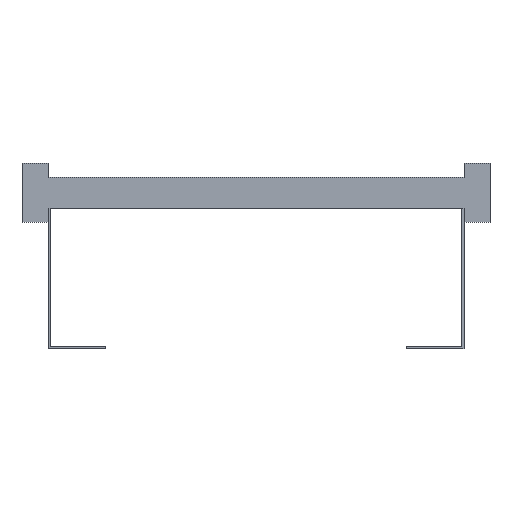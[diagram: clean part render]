
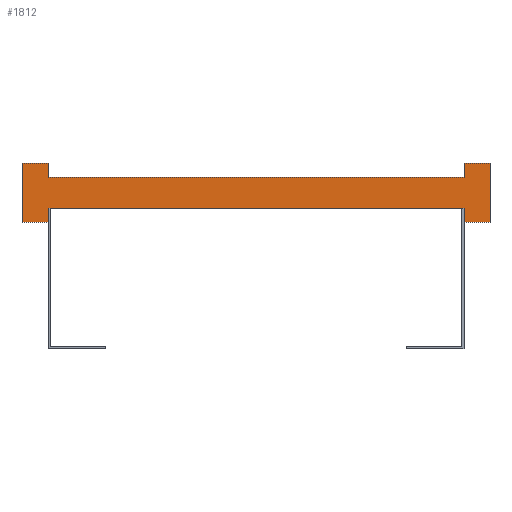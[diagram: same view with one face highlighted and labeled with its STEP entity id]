
A CAD part, front view. The second image highlights one B-rep face of the part: STEP entity #1812.
In plain terms, the highlighted planar face has unit normal (0, -1, 0).
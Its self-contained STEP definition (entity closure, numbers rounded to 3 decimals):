
#1=DIRECTION('',(0.,0.,1.));
#2=VECTOR('',#1,13.5);
#3=CARTESIAN_POINT('',(200.,0.,-28.5));
#4=LINE('',#3,#2);
#5=DIRECTION('',(0.,0.,-1.));
#6=VECTOR('',#5,13.5);
#7=CARTESIAN_POINT('',(-200.,0.,-15.));
#8=LINE('',#7,#6);
#9=DIRECTION('',(-1.,0.,0.));
#10=VECTOR('',#9,25.);
#11=CARTESIAN_POINT('',(-200.,0.,-28.5));
#12=LINE('',#11,#10);
#13=DIRECTION('',(0.,0.,1.));
#14=VECTOR('',#13,57.);
#15=CARTESIAN_POINT('',(-225.,0.,-28.5));
#16=LINE('',#15,#14);
#17=DIRECTION('',(1.,0.,0.));
#18=VECTOR('',#17,25.);
#19=CARTESIAN_POINT('',(-225.,0.,28.5));
#20=LINE('',#19,#18);
#21=DIRECTION('',(0.,0.,-1.));
#22=VECTOR('',#21,13.5);
#23=CARTESIAN_POINT('',(-200.,0.,28.5));
#24=LINE('',#23,#22);
#25=DIRECTION('',(0.,0.,1.));
#26=VECTOR('',#25,13.5);
#27=CARTESIAN_POINT('',(200.,0.,15.));
#28=LINE('',#27,#26);
#29=DIRECTION('',(1.,0.,0.));
#30=VECTOR('',#29,25.);
#31=CARTESIAN_POINT('',(200.,0.,28.5));
#32=LINE('',#31,#30);
#33=DIRECTION('',(0.,0.,-1.));
#34=VECTOR('',#33,57.);
#35=CARTESIAN_POINT('',(225.,0.,28.5));
#36=LINE('',#35,#34);
#37=DIRECTION('',(-1.,0.,0.));
#38=VECTOR('',#37,25.);
#39=CARTESIAN_POINT('',(225.,0.,-28.5));
#40=LINE('',#39,#38);
#1329=DIRECTION('',(1.,0.,0.));
#1330=VECTOR('',#1329,400.);
#1331=CARTESIAN_POINT('',(-200.,0.,-15.));
#1332=LINE('',#1331,#1330);
#1341=DIRECTION('',(1.,0.,0.));
#1342=VECTOR('',#1341,400.);
#1343=CARTESIAN_POINT('',(-200.,0.,15.));
#1344=LINE('',#1343,#1342);
#1345=CARTESIAN_POINT('',(-225.,0.,28.5));
#1346=CARTESIAN_POINT('',(-200.,0.,28.5));
#1347=VERTEX_POINT('',#1345);
#1348=VERTEX_POINT('',#1346);
#1349=CARTESIAN_POINT('',(-200.,0.,-28.5));
#1350=CARTESIAN_POINT('',(-225.,0.,-28.5));
#1351=VERTEX_POINT('',#1349);
#1352=VERTEX_POINT('',#1350);
#1353=CARTESIAN_POINT('',(225.,0.,28.5));
#1354=CARTESIAN_POINT('',(225.,0.,-28.5));
#1355=VERTEX_POINT('',#1353);
#1356=VERTEX_POINT('',#1354);
#1357=CARTESIAN_POINT('',(200.,0.,-28.5));
#1358=VERTEX_POINT('',#1357);
#1359=CARTESIAN_POINT('',(200.,0.,28.5));
#1360=VERTEX_POINT('',#1359);
#1377=CARTESIAN_POINT('',(-200.,0.,-15.));
#1379=VERTEX_POINT('',#1377);
#1381=CARTESIAN_POINT('',(-200.,0.,15.));
#1383=VERTEX_POINT('',#1381);
#1385=CARTESIAN_POINT('',(200.,0.,-15.));
#1387=VERTEX_POINT('',#1385);
#1389=CARTESIAN_POINT('',(200.,0.,15.));
#1391=VERTEX_POINT('',#1389);
#1781=CARTESIAN_POINT('',(0.,0.,0.));
#1782=DIRECTION('',(0.,1.,0.));
#1783=DIRECTION('',(1.,0.,0.));
#1784=AXIS2_PLACEMENT_3D('',#1781,#1782,#1783);
#1785=PLANE('',#1784);
#1787=ORIENTED_EDGE('',*,*,#1786,.T.);
#1789=ORIENTED_EDGE('',*,*,#1788,.F.);
#1791=ORIENTED_EDGE('',*,*,#1790,.T.);
#1793=ORIENTED_EDGE('',*,*,#1792,.T.);
#1795=ORIENTED_EDGE('',*,*,#1794,.T.);
#1797=ORIENTED_EDGE('',*,*,#1796,.T.);
#1799=ORIENTED_EDGE('',*,*,#1798,.T.);
#1801=ORIENTED_EDGE('',*,*,#1800,.T.);
#1803=ORIENTED_EDGE('',*,*,#1802,.T.);
#1805=ORIENTED_EDGE('',*,*,#1804,.T.);
#1807=ORIENTED_EDGE('',*,*,#1806,.T.);
#1809=ORIENTED_EDGE('',*,*,#1808,.T.);
#1810=EDGE_LOOP('',(#1787,#1789,#1791,#1793,#1795,#1797,#1799,#1801,#1803,#1805,
#1807,#1809));
#1811=FACE_OUTER_BOUND('',#1810,.F.);
#1812=ADVANCED_FACE('',(#1811),#1785,.F.);
#1786=EDGE_CURVE('',#1358,#1387,#4,.T.);
#1788=EDGE_CURVE('',#1379,#1387,#1332,.T.);
#1790=EDGE_CURVE('',#1379,#1351,#8,.T.);
#1792=EDGE_CURVE('',#1351,#1352,#12,.T.);
#1794=EDGE_CURVE('',#1352,#1347,#16,.T.);
#1796=EDGE_CURVE('',#1347,#1348,#20,.T.);
#1798=EDGE_CURVE('',#1348,#1383,#24,.T.);
#1800=EDGE_CURVE('',#1383,#1391,#1344,.T.);
#1802=EDGE_CURVE('',#1391,#1360,#28,.T.);
#1804=EDGE_CURVE('',#1360,#1355,#32,.T.);
#1806=EDGE_CURVE('',#1355,#1356,#36,.T.);
#1808=EDGE_CURVE('',#1356,#1358,#40,.T.);
